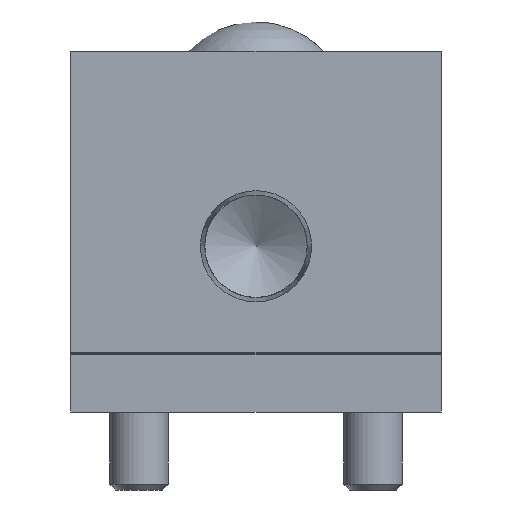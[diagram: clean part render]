
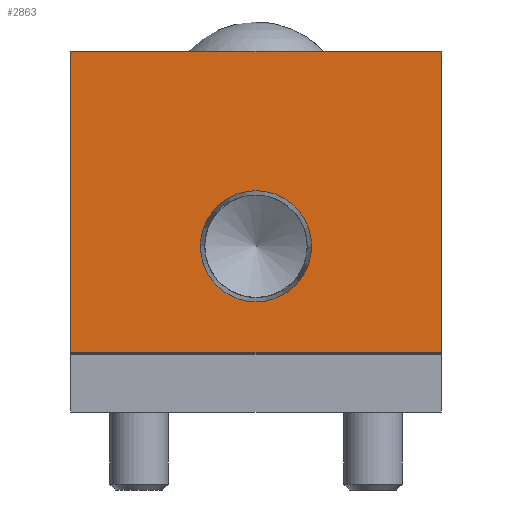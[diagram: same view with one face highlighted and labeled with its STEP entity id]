
A CAD part, front view. The second image highlights one B-rep face of the part: STEP entity #2863.
In plain terms, the highlighted planar face has unit normal (0, -1, 0).
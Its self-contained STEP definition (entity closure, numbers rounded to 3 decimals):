
#198=FACE_BOUND('',#631,.T.);
#271=CIRCLE('',#3023,5.704);
#413=FACE_OUTER_BOUND('',#630,.T.);
#630=EDGE_LOOP('',(#2073,#2074,#2075,#2076));
#631=EDGE_LOOP('',(#2077));
#858=LINE('',#4158,#1066);
#861=LINE('',#4163,#1069);
#863=LINE('',#4171,#1071);
#883=LINE('',#4220,#1091);
#1066=VECTOR('',#3351,30.9);
#1069=VECTOR('',#3356,38.);
#1071=VECTOR('',#3364,30.9);
#1091=VECTOR('',#3416,38.);
#1267=VERTEX_POINT('',#4155);
#1268=VERTEX_POINT('',#4157);
#1269=VERTEX_POINT('',#4161);
#1272=VERTEX_POINT('',#4169);
#1276=VERTEX_POINT('',#4183);
#1525=EDGE_CURVE('',#1268,#1267,#858,.T.);
#1528=EDGE_CURVE('',#1267,#1269,#861,.T.);
#1532=EDGE_CURVE('',#1272,#1269,#863,.T.);
#1537=EDGE_CURVE('',#1276,#1276,#271,.T.);
#1556=EDGE_CURVE('',#1272,#1268,#883,.T.);
#2073=ORIENTED_EDGE('',*,*,#1556,.T.);
#2074=ORIENTED_EDGE('',*,*,#1525,.T.);
#2075=ORIENTED_EDGE('',*,*,#1528,.T.);
#2076=ORIENTED_EDGE('',*,*,#1532,.F.);
#2077=ORIENTED_EDGE('',*,*,#1537,.T.);
#2582=PLANE('',#3085);
#2863=ADVANCED_FACE('',(#413,#198),#2582,.T.);
#3023=AXIS2_PLACEMENT_3D('',#4184,#3379,#3380);
#3085=AXIS2_PLACEMENT_3D('',#4382,#3554,#3555);
#3351=DIRECTION('',(0.,0.,1.));
#3356=DIRECTION('',(-1.,0.,0.));
#3364=DIRECTION('',(0.,0.,1.));
#3379=DIRECTION('center_axis',(0.,1.,0.));
#3380=DIRECTION('ref_axis',(1.,0.,0.));
#3416=DIRECTION('',(1.,0.,0.));
#3554=DIRECTION('center_axis',(0.,-1.,0.));
#3555=DIRECTION('ref_axis',(0.,0.,-1.));
#4155=CARTESIAN_POINT('',(19.,0.,37.));
#4157=CARTESIAN_POINT('',(19.,0.,6.1));
#4158=CARTESIAN_POINT('',(19.,0.,0.));
#4161=CARTESIAN_POINT('',(-19.,0.,37.));
#4163=CARTESIAN_POINT('',(19.,0.,37.));
#4169=CARTESIAN_POINT('',(-19.,0.,6.1));
#4171=CARTESIAN_POINT('',(-19.,0.,0.));
#4183=CARTESIAN_POINT('',(5.704,0.,17.));
#4184=CARTESIAN_POINT('Origin',(0.,0.,17.));
#4220=CARTESIAN_POINT('',(19.,0.,6.1));
#4382=CARTESIAN_POINT('Origin',(19.,0.,0.));
